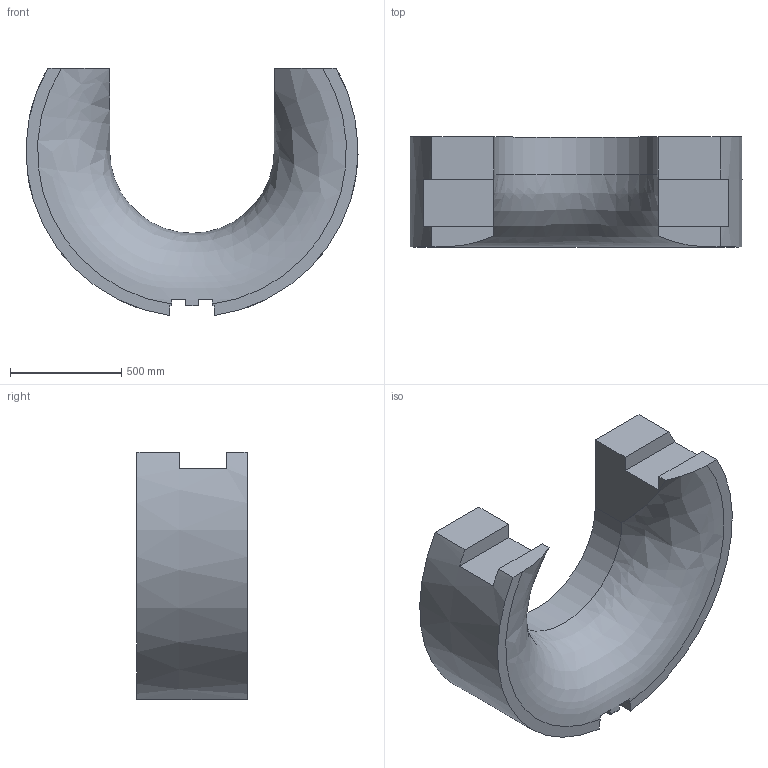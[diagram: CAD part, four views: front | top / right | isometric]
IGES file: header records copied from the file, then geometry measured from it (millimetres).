
Start section:  PTC IGES file: bpu_horseshoe_rear_af0.igs
Global section: file name: bpu_horseshoe_rear_af0.igs; native system: Pro/ENGINEER by Parametric Technology Corporation; preprocessor: 1999260; author: oshatz; organization: Unknown; date: 000922.101843; units: millimetre
Bounding box: 1493.43 x 495 x 1111.28 mm (x, y, z)
Surface area: 4489185.1 mm2 (no closed solid volume)
Topology: 0 solids, 0 shells, 31 faces, 174 edges, 174 vertices
Faces by surface type: bspline 27, revolution 4
